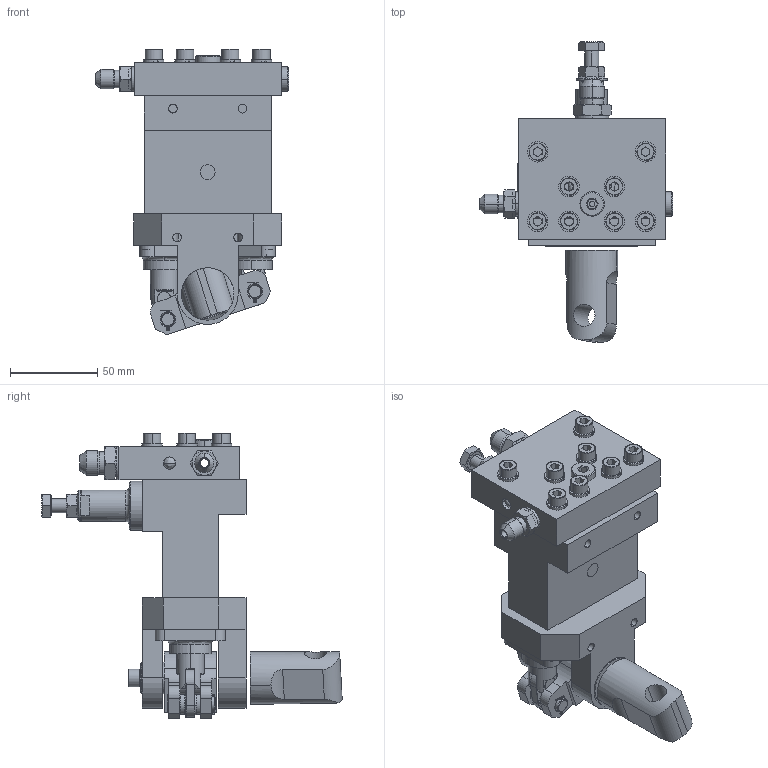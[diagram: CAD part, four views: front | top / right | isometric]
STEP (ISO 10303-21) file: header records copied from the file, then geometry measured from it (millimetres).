
FILE_DESCRIPTION (( 'STEP AP203' ), '1' );
FILE_NAME ('IPA_0416.STEP', '2018-05-30T07:53:58', ( '' ), ( '' ), 'SwSTEP 2.0', 'SolidWorks 2015', '' );
FILE_SCHEMA (( 'CONFIG_CONTROL_DESIGN' ));
Length unit declared in the file: millimetre
Products named in the file (1): IPA_0416
Bounding box: 111 x 172.51 x 164 mm (x, y, z)
Surface area: 97852.5 mm2 (no closed solid volume)
Topology: 0 solids, 52 shells, 650 faces, 1980 edges, 1362 vertices
Faces by surface type: plane 300, cylinder 212, cone 82, bspline 56
Entity records: 31578 total; most frequent: CARTESIAN_POINT 14743, ORIENTED_EDGE 3312, DIRECTION 3286, EDGE_CURVE 1960, VERTEX_POINT 1358, AXIS2_PLACEMENT_3D 1174, LINE 938, VECTOR 938
